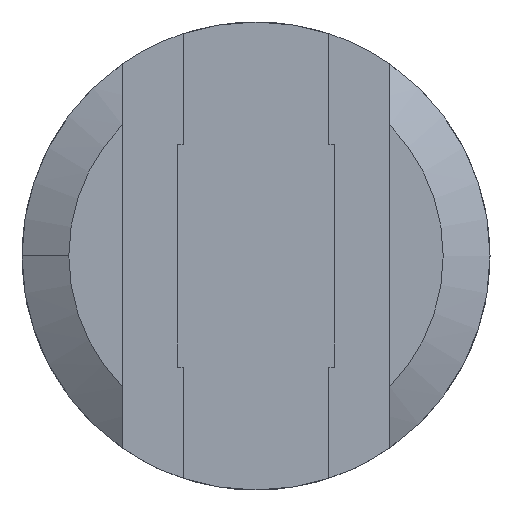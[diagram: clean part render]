
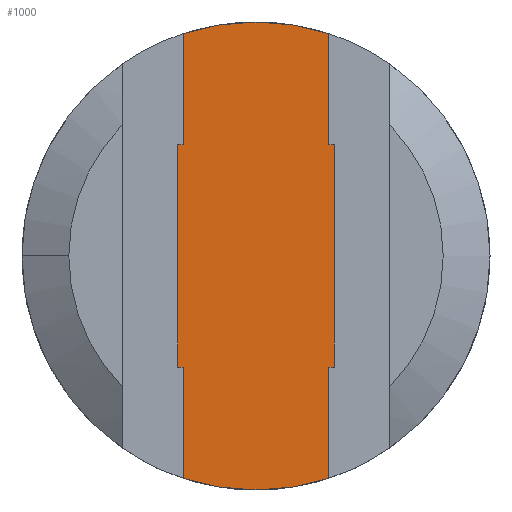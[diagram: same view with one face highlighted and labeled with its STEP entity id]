
A CAD part, top view. The second image highlights one B-rep face of the part: STEP entity #1000.
In plain terms, the highlighted planar face has unit normal (0, 0, 1).
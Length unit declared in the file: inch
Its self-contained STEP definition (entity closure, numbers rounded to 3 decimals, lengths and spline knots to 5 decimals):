
#86=CARTESIAN_POINT('',(0.,0.,0.167));
#87=DIRECTION('',(0.,0.,1.));
#88=DIRECTION('',(0.311,0.95,0.));
#89=AXIS2_PLACEMENT_3D('',#86,#87,#88);
#190=CARTESIAN_POINT('',(0.,0.,0.167));
#191=DIRECTION('',(0.,0.,1.));
#192=DIRECTION('',(-0.312,-0.95,0.));
#193=AXIS2_PLACEMENT_3D('',#190,#191,#192);
#269=DIRECTION('',(0.,1.,0.));
#270=VECTOR('',#269,0.23762);
#271=CARTESIAN_POINT('',(0.15575,0.2375,
0.167));
#272=LINE('',#271,#270);
#273=DIRECTION('',(-1.,0.,0.));
#274=VECTOR('',#273,0.01175);
#275=CARTESIAN_POINT('',(0.1675,0.2375,0.167));
#276=LINE('',#275,#274);
#277=DIRECTION('',(0.,1.,0.));
#278=VECTOR('',#277,0.475);
#279=CARTESIAN_POINT('',(0.1675,-0.2375,0.167));
#280=LINE('',#279,#278);
#281=DIRECTION('',(1.,0.,0.));
#282=VECTOR('',#281,0.01175);
#283=CARTESIAN_POINT('',(0.15575,-0.2375,
0.167));
#284=LINE('',#283,#282);
#285=DIRECTION('',(0.,1.,0.));
#286=VECTOR('',#285,0.23762);
#287=CARTESIAN_POINT('',(0.15575,-0.47512,
0.167));
#288=LINE('',#287,#286);
#289=DIRECTION('',(0.,1.,0.));
#290=VECTOR('',#289,0.475);
#291=CARTESIAN_POINT('',(-0.1675,-0.2375,0.167));
#292=LINE('',#291,#290);
#293=DIRECTION('',(0.,1.,0.));
#294=VECTOR('',#293,0.23762);
#295=CARTESIAN_POINT('',(-0.15575,0.2375,
0.167));
#296=LINE('',#295,#294);
#331=DIRECTION('',(1.,0.,0.));
#332=VECTOR('',#331,0.01175);
#333=CARTESIAN_POINT('',(-0.1675,0.2375,0.167));
#334=LINE('',#333,#332);
#343=DIRECTION('',(-1.,0.,0.));
#344=VECTOR('',#343,0.01175);
#345=CARTESIAN_POINT('',(-0.15575,-0.2375,
0.167));
#346=LINE('',#345,#344);
#351=DIRECTION('',(0.,1.,0.));
#352=VECTOR('',#351,0.23762);
#353=CARTESIAN_POINT('',(-0.15575,-0.47512,
0.167));
#354=LINE('',#353,#352);
#555=CARTESIAN_POINT('',(0.15575,0.47512,
0.167));
#557=VERTEX_POINT('',#555);
#560=CARTESIAN_POINT('',(-0.15575,0.47512,
0.167));
#562=VERTEX_POINT('',#560);
#597=CARTESIAN_POINT('',(-0.15575,-0.47512,
0.167));
#599=VERTEX_POINT('',#597);
#602=CARTESIAN_POINT('',(0.15575,-0.47512,
0.167));
#604=VERTEX_POINT('',#602);
#613=CARTESIAN_POINT('',(0.15575,0.2375,
0.167));
#614=VERTEX_POINT('',#613);
#615=CARTESIAN_POINT('',(0.1675,0.2375,0.167));
#616=VERTEX_POINT('',#615);
#617=CARTESIAN_POINT('',(0.1675,-0.2375,0.167));
#618=VERTEX_POINT('',#617);
#619=CARTESIAN_POINT('',(0.15575,-0.2375,
0.167));
#620=VERTEX_POINT('',#619);
#621=CARTESIAN_POINT('',(-0.15575,0.2375,
0.167));
#622=VERTEX_POINT('',#621);
#631=CARTESIAN_POINT('',(-0.1675,0.2375,0.167));
#632=VERTEX_POINT('',#631);
#633=CARTESIAN_POINT('',(-0.1675,-0.2375,0.167));
#634=VERTEX_POINT('',#633);
#635=CARTESIAN_POINT('',(-0.15575,-0.2375,
0.167));
#636=VERTEX_POINT('',#635);
#972=CARTESIAN_POINT('',(0.,0.,0.167));
#973=DIRECTION('',(0.,0.,1.));
#974=DIRECTION('',(1.,0.,0.));
#975=AXIS2_PLACEMENT_3D('',#972,#973,#974);
#976=PLANE('',#975);
#978=ORIENTED_EDGE('',*,*,#977,.T.);
#979=ORIENTED_EDGE('',*,*,#786,.F.);
#981=ORIENTED_EDGE('',*,*,#980,.F.);
#983=ORIENTED_EDGE('',*,*,#982,.F.);
#985=ORIENTED_EDGE('',*,*,#984,.F.);
#987=ORIENTED_EDGE('',*,*,#986,.F.);
#988=ORIENTED_EDGE('',*,*,#958,.F.);
#989=ORIENTED_EDGE('',*,*,#857,.F.);
#991=ORIENTED_EDGE('',*,*,#990,.T.);
#993=ORIENTED_EDGE('',*,*,#992,.T.);
#995=ORIENTED_EDGE('',*,*,#994,.T.);
#997=ORIENTED_EDGE('',*,*,#996,.T.);
#998=EDGE_LOOP('',(#978,#979,#981,#983,#985,#987,#988,#989,#991,#993,#995,
#997));
#999=FACE_OUTER_BOUND('',#998,.F.);
#90=CIRCLE('',#89,0.5);
#194=CIRCLE('',#193,0.5);
#786=EDGE_CURVE('',#557,#562,#90,.T.);
#857=EDGE_CURVE('',#599,#604,#194,.T.);
#958=EDGE_CURVE('',#604,#620,#288,.T.);
#977=EDGE_CURVE('',#622,#562,#296,.T.);
#980=EDGE_CURVE('',#614,#557,#272,.T.);
#982=EDGE_CURVE('',#616,#614,#276,.T.);
#984=EDGE_CURVE('',#618,#616,#280,.T.);
#986=EDGE_CURVE('',#620,#618,#284,.T.);
#990=EDGE_CURVE('',#599,#636,#354,.T.);
#992=EDGE_CURVE('',#636,#634,#346,.T.);
#994=EDGE_CURVE('',#634,#632,#292,.T.);
#996=EDGE_CURVE('',#632,#622,#334,.T.);
#1000=ADVANCED_FACE('',(#999),#976,.T.);
